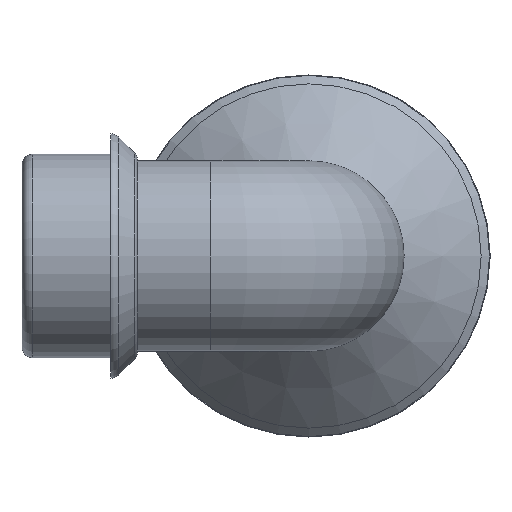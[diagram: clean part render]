
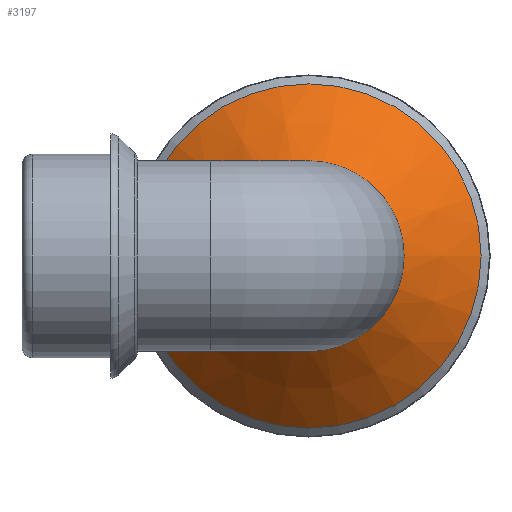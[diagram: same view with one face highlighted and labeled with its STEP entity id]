
A CAD part, left-side view. The second image highlights one B-rep face of the part: STEP entity #3197.
In plain terms, the highlighted conical face has half-angle 45 degrees and reference radius 39.135 mm.
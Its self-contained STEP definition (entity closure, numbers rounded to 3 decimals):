
#22=CONICAL_SURFACE('',#3580,39.135,45.);
#640=FACE_BOUND('',#1077,.T.);
#851=FACE_OUTER_BOUND('',#1076,.T.);
#1076=EDGE_LOOP('',(#2913));
#1077=EDGE_LOOP('',(#2914));
#1103=CIRCLE('',#3219,27.87);
#1268=CIRCLE('',#3581,50.4);
#1282=VERTEX_POINT('',#4577);
#1543=VERTEX_POINT('',#6066);
#1557=EDGE_CURVE('',#1282,#1282,#1103,.T.);
#2004=EDGE_CURVE('',#1543,#1543,#1268,.T.);
#2913=ORIENTED_EDGE('',*,*,#2004,.F.);
#2914=ORIENTED_EDGE('',*,*,#1557,.T.);
#3197=ADVANCED_FACE('',(#851,#640),#22,.T.);
#3219=AXIS2_PLACEMENT_3D('',#4578,#3620,#3621);
#3580=AXIS2_PLACEMENT_3D('',#6065,#4522,#4523);
#3581=AXIS2_PLACEMENT_3D('',#6067,#4524,#4525);
#3620=DIRECTION('center_axis',(1.,0.,0.));
#3621=DIRECTION('ref_axis',(0.,0.,-1.));
#4522=DIRECTION('center_axis',(1.,0.,0.));
#4523=DIRECTION('ref_axis',(0.,1.,0.));
#4524=DIRECTION('center_axis',(1.,0.,0.));
#4525=DIRECTION('ref_axis',(0.,0.,-1.));
#4577=CARTESIAN_POINT('',(28.8,27.87,0.));
#4578=CARTESIAN_POINT('Origin',(28.8,0.,0.));
#6065=CARTESIAN_POINT('Origin',(40.065,0.,0.));
#6066=CARTESIAN_POINT('',(51.33,50.4,0.));
#6067=CARTESIAN_POINT('Origin',(51.33,0.,0.));
